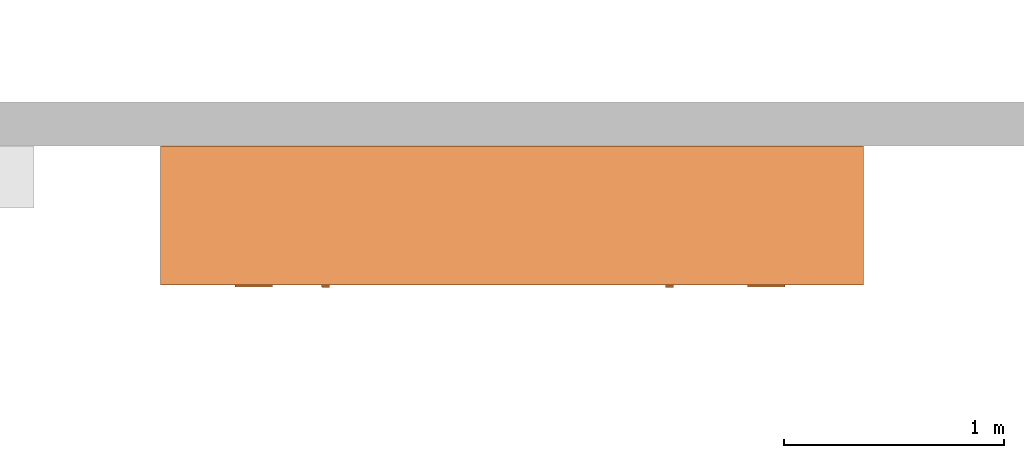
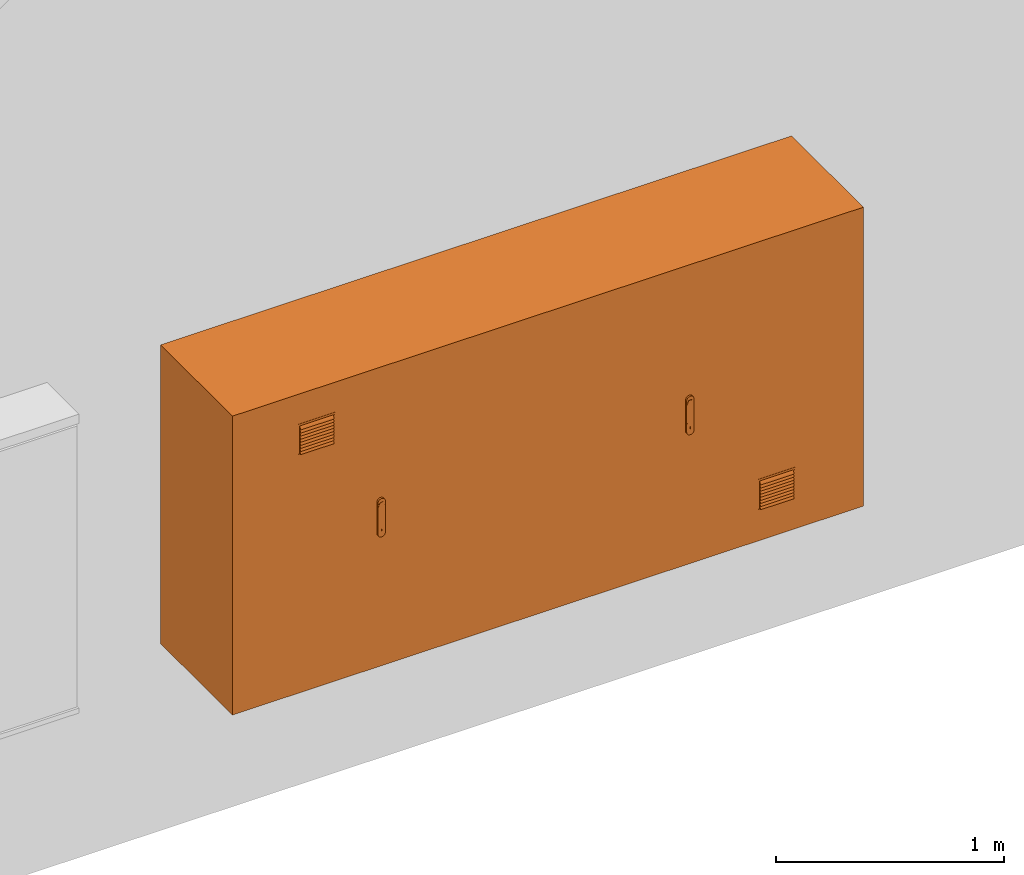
# One storey, part 48 of 197: 1 proxy.
"""IFC2X3 building model written with IfcOpenShell, lengths in metres."""

from ifc_helpers import new_model, entity, si_unit, converted_unit, direction, frame, frame_2d, origin, origin_2d_with_axis, place, context, subcontext, project, spatial, polyline, circle_curve, parameter, trimmed, segment, composite_curve, rectangle, circle, outline, extrude, source, transform, mapped, material, material_list, type_object, type_shapes, element, save


model = new_model("IFC2X3")

# Units and contexts
model_context = context("Model", 3, precision=1e-05, world=origin(), true_north=direction((6.123031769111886e-17, 1.0)))
body_context = subcontext(model_context, "Body", "Model", "MODEL_VIEW")
ifc_project = project(units=[si_unit("LENGTHUNIT", "METRE"), converted_unit("PLANEANGLEUNIT", "DEGREE", entity("IfcPlaneAngleMeasure", 0.017453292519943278), si_unit("PLANEANGLEUNIT", "RADIAN"), dimensions=[0, 0, 0, 0, 0, 0, 0]), si_unit("AREAUNIT", "SQUARE_METRE")], contexts=[model_context])

# Site, building, storey
site_placement = place(None, origin())
site = spatial("IfcSite", under=ifc_project, at=site_placement, Name="Default", CompositionType="ELEMENT")
building_placement = place(site_placement, origin())
building = spatial("IfcBuilding", under=site, at=building_placement, CompositionType="ELEMENT")
storey_placement = place(building_placement, origin())
storey = spatial("IfcBuildingStorey", under=building, at=storey_placement, Name="Niveau 0", CompositionType="ELEMENT", Elevation=0.0)

# Proxy
ifc_material_1 = material(Name="<Unnamed>")
ifc_material_2 = material(Name="A-PEINTURE ARMOIRE 4 - POIGNE - RAL 7035")
ifc_material_3 = material(Name="A-ACIER INOXIDABLE - BARILLET - RAL 9010")
ifc_material_4 = material(Name="BETCE-BARILLET-RAL 9010")
ifc_material_5 = material(Name="A-PEINTURE ARMOIRE 4 - ENVELOPPE - RAL 7035")
ifc_material_list = material_list([ifc_material_1, ifc_material_2, ifc_material_3, ifc_material_4, ifc_material_5])
building_element_proxy_type = type_object("IfcBuildingElementProxyType", Name="Armoire double 3195x1600x630:3195X1600", PredefinedType="NOTDEFINED", material=ifc_material_list)
shared_shape = source(origin(), body_context, "Body", "SweptSolid", [
    extrude(outline(polyline([(-0.004999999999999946, -0.0849999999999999), (0.005000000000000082, -0.0849999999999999), (0.005000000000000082, 0.0849999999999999), (-0.004999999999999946, 0.0849999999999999), (-0.004999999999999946, -0.0849999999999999)]), holes=[composite_curve([segment(trimmed(circle_curve(frame_2d((0.0, 0.0742499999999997), x_axis=(-1.0, 0.0)), 0.002), [parameter(179.99999999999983)], [parameter(0.0)], True, "PARAMETER"), False, "CONTINUOUS"), segment(trimmed(circle_curve(frame_2d((0.0, 0.0742499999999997), x_axis=(-1.0, 0.0)), 0.002), [parameter(0.0)], [parameter(179.99999999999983)], True, "PARAMETER"), False, "CONTINUOUS")], self_intersect=False), composite_curve([segment(trimmed(circle_curve(frame_2d((0.0, -0.0742500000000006), x_axis=(-1.0, 0.0)), 0.002), [parameter(179.99999999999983)], [parameter(359.99999999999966)], True, "PARAMETER"), False, "CONTINUOUS"), segment(trimmed(circle_curve(frame_2d((0.0, -0.0742500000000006), x_axis=(-1.0, 0.0)), 0.002), [parameter(3.5622212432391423e-13)], [parameter(179.99999999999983)], True, "PARAMETER"), False, "CONTINUOUS")], self_intersect=False)]), frame((0.6393749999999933, -0.7060000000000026, 1.3550000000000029), z_axis=(0.0, 1.0, 0.0), x_axis=(-1.0, 0.0, 0.0)), (0.0, 0.0, 1.0), 0.001000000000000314),
    extrude(outline(polyline([(-0.005000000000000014, -0.0849999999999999), (0.005000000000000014, -0.0849999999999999), (0.005000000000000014, 0.0849999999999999), (-0.005000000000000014, 0.0849999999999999), (-0.005000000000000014, -0.0849999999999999)]), holes=[composite_curve([segment(trimmed(circle_curve(frame_2d((0.0, 0.07425000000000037), x_axis=(-1.0, 0.0)), 0.002), [parameter(179.99999999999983)], [parameter(0.0)], True, "PARAMETER"), False, "CONTINUOUS"), segment(trimmed(circle_curve(frame_2d((0.0, 0.07425000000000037), x_axis=(-1.0, 0.0)), 0.002), [parameter(0.0)], [parameter(179.99999999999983)], True, "PARAMETER"), False, "CONTINUOUS")], self_intersect=False), composite_curve([segment(trimmed(circle_curve(frame_2d((0.0, -0.07424999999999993), x_axis=(-1.0, 0.0)), 0.002), [parameter(179.99999999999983)], [parameter(359.99999999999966)], True, "PARAMETER"), False, "CONTINUOUS"), segment(trimmed(circle_curve(frame_2d((0.0, -0.07424999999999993), x_axis=(-1.0, 0.0)), 0.002), [parameter(3.5622212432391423e-13)], [parameter(179.99999999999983)], True, "PARAMETER"), False, "CONTINUOUS")], self_intersect=False)]), frame((0.45937499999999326, -0.7060000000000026, 1.3550000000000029), z_axis=(0.0, 1.0, 0.0), x_axis=(-1.0, 0.0, 0.0)), (0.0, 0.0, 1.0), 0.001000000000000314),
    extrude(outline(composite_curve([segment(polyline([(-0.004434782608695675, -0.08822826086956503), (-0.0034347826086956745, -0.08822826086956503)]), True, "CONTINUOUS"), segment(polyline([(-0.0034347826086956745, -0.08822826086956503), (-0.0034347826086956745, -0.07747826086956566)]), True, "CONTINUOUS"), segment(trimmed(circle_curve(frame_2d((-0.018944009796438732, -0.05831413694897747), x_axis=(1.0, 0.0)), 0.024653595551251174), [parameter(308.9827075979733)], [parameter(353.79637307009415)], True, "PARAMETER"), True, "CONTINUOUS"), segment(polyline([(0.0055652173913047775, -0.06097826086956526), (-0.0034347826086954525, -0.06097826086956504)]), True, "CONTINUOUS"), segment(trimmed(circle_curve(frame_2d((-0.018944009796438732, -0.04181413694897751), x_axis=(1.0, 0.0)), 0.024653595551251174), [parameter(308.98270759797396)], [parameter(353.7963730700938)], True, "PARAMETER"), True, "CONTINUOUS"), segment(polyline([(0.0055652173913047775, -0.0444782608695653), (-0.0034347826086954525, -0.04447826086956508)]), True, "CONTINUOUS"), segment(trimmed(circle_curve(frame_2d((-0.018944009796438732, -0.02531413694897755), x_axis=(1.0, 0.0)), 0.024653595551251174), [parameter(308.98270759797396)], [parameter(353.7963730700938)], True, "PARAMETER"), True, "CONTINUOUS"), segment(polyline([(0.0055652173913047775, -0.02797826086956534), (-0.0034347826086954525, -0.027978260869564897)]), True, "CONTINUOUS"), segment(trimmed(circle_curve(frame_2d((-0.018944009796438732, -0.008814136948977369), x_axis=(1.0, 0.0)), 0.024653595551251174), [parameter(308.98270759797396)], [parameter(353.7963730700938)], True, "PARAMETER"), True, "CONTINUOUS"), segment(polyline([(0.0055652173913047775, -0.01147826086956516), (-0.0034347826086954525, -0.011478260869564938)]), True, "CONTINUOUS"), segment(trimmed(circle_curve(frame_2d((-0.018944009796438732, 0.00768586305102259), x_axis=(1.0, 0.0)), 0.024653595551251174), [parameter(308.98270759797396)], [parameter(353.7963730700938)], True, "PARAMETER"), True, "CONTINUOUS"), segment(polyline([(0.0055652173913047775, 0.005021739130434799), (-0.0034347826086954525, 0.005021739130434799)]), True, "CONTINUOUS"), segment(trimmed(circle_curve(frame_2d((-0.01894400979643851, 0.024185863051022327), x_axis=(1.0, 0.0)), 0.024653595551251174), [parameter(308.982707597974)], [parameter(353.79637307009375)], True, "PARAMETER"), True, "CONTINUOUS"), segment(polyline([(0.005565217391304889, 0.02152173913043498), (-0.0034347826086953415, 0.02152173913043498)]), True, "CONTINUOUS"), segment(trimmed(circle_curve(frame_2d((-0.01894400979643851, 0.04068586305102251), x_axis=(1.0, 0.0)), 0.024653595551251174), [parameter(308.982707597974)], [parameter(353.79637307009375)], True, "PARAMETER"), True, "CONTINUOUS"), segment(polyline([(0.005565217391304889, 0.03802173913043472), (-0.0034347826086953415, 0.03802173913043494)]), True, "CONTINUOUS"), segment(trimmed(circle_curve(frame_2d((-0.01894400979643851, 0.05718586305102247), x_axis=(1.0, 0.0)), 0.024653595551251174), [parameter(308.982707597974)], [parameter(353.79637307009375)], True, "PARAMETER"), True, "CONTINUOUS"), segment(polyline([(0.005565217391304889, 0.05452173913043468), (-0.0034347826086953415, 0.0545217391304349)]), True, "CONTINUOUS"), segment(trimmed(circle_curve(frame_2d((-0.01894400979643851, 0.07368586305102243), x_axis=(1.0, 0.0)), 0.024653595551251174), [parameter(308.982707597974)], [parameter(353.7963730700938)], True, "PARAMETER"), True, "CONTINUOUS"), segment(polyline([(0.005565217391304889, 0.07102173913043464), (-0.0034347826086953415, 0.07102173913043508)]), True, "CONTINUOUS"), segment(polyline([(-0.0034347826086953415, 0.07102173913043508), (-0.0034347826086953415, 0.08177173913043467)]), True, "CONTINUOUS"), segment(polyline([(-0.0034347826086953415, 0.08177173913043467), (-0.004434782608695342, 0.08177173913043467)]), True, "CONTINUOUS"), segment(polyline([(-0.004434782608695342, 0.08177173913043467), (-0.004434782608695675, -0.08822826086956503)]), True, "CONTINUOUS")], self_intersect=False)), frame((0.4643749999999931, -0.709434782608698, 1.3517717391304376), z_axis=(1.0, 0.0, 0.0), x_axis=(0.0, -1.0, 0.0)), (0.0, 0.0, 1.0), 0.16999999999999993),
    extrude(outline(polyline([(-0.004999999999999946, -0.0849999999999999), (0.004999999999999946, -0.0849999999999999), (0.004999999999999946, 0.0849999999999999), (-0.004999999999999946, 0.0849999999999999), (-0.004999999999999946, -0.0849999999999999)]), holes=[composite_curve([segment(trimmed(circle_curve(frame_2d((0.0, 0.0742499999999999), x_axis=(-1.0, 0.0)), 0.002), [parameter(179.99999999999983)], [parameter(0.0)], True, "PARAMETER"), False, "CONTINUOUS"), segment(trimmed(circle_curve(frame_2d((0.0, 0.0742499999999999), x_axis=(-1.0, 0.0)), 0.002), [parameter(0.0)], [parameter(179.99999999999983)], True, "PARAMETER"), False, "CONTINUOUS")], self_intersect=False), composite_curve([segment(trimmed(circle_curve(frame_2d((0.0, -0.07425000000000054), x_axis=(-1.0, 0.0)), 0.002), [parameter(179.99999999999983)], [parameter(359.99999999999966)], True, "PARAMETER"), False, "CONTINUOUS"), segment(trimmed(circle_curve(frame_2d((0.0, -0.07425000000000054), x_axis=(-1.0, 0.0)), 0.002), [parameter(3.5622212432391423e-13)], [parameter(179.99999999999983)], True, "PARAMETER"), False, "CONTINUOUS")], self_intersect=False)]), frame((2.968274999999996, -0.7060000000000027, 0.2450000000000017), z_axis=(0.0, 1.0, 0.0), x_axis=(-1.0, 0.0, 0.0)), (0.0, 0.0, 1.0), 0.001000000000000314),
    extrude(outline(polyline([(-0.004999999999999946, -0.0849999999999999), (0.004999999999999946, -0.0849999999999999), (0.004999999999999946, 0.0849999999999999), (-0.004999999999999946, 0.0849999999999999), (-0.004999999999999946, -0.0849999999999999)]), holes=[composite_curve([segment(trimmed(circle_curve(frame_2d((0.0, 0.07425000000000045), x_axis=(-1.0, 0.0)), 0.002), [parameter(179.99999999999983)], [parameter(0.0)], True, "PARAMETER"), False, "CONTINUOUS"), segment(trimmed(circle_curve(frame_2d((0.0, 0.07425000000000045), x_axis=(-1.0, 0.0)), 0.002), [parameter(0.0)], [parameter(179.99999999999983)], True, "PARAMETER"), False, "CONTINUOUS")], self_intersect=False), composite_curve([segment(trimmed(circle_curve(frame_2d((0.0, -0.07424999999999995), x_axis=(-1.0, 0.0)), 0.002), [parameter(179.99999999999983)], [parameter(359.99999999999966)], True, "PARAMETER"), False, "CONTINUOUS"), segment(trimmed(circle_curve(frame_2d((0.0, -0.07424999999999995), x_axis=(-1.0, 0.0)), 0.002), [parameter(3.5622212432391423e-13)], [parameter(179.99999999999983)], True, "PARAMETER"), False, "CONTINUOUS")], self_intersect=False)]), frame((2.788274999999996, -0.7060000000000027, 0.2450000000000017), z_axis=(0.0, 1.0, 0.0), x_axis=(-1.0, 0.0, 0.0)), (0.0, 0.0, 1.0), 0.001000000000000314),
    extrude(outline(composite_curve([segment(polyline([(-0.004434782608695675, -0.08822826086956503), (-0.0034347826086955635, -0.08822826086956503)]), True, "CONTINUOUS"), segment(polyline([(-0.0034347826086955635, -0.08822826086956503), (-0.0034347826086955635, -0.0774782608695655)]), True, "CONTINUOUS"), segment(trimmed(circle_curve(frame_2d((-0.01894400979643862, -0.05831413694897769), x_axis=(1.0, 0.0)), 0.024653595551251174), [parameter(308.9827075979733)], [parameter(353.79637307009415)], True, "PARAMETER"), True, "CONTINUOUS"), segment(polyline([(0.0055652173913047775, -0.060978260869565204), (-0.0034347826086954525, -0.06097826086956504)]), True, "CONTINUOUS"), segment(trimmed(circle_curve(frame_2d((-0.01894400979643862, -0.04181413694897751), x_axis=(1.0, 0.0)), 0.024653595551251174), [parameter(308.98270759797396)], [parameter(353.7963730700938)], True, "PARAMETER"), True, "CONTINUOUS"), segment(polyline([(0.0055652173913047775, -0.04447826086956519), (-0.0034347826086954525, -0.04447826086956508)]), True, "CONTINUOUS"), segment(trimmed(circle_curve(frame_2d((-0.01894400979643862, -0.02531413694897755), x_axis=(1.0, 0.0)), 0.024653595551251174), [parameter(308.98270759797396)], [parameter(353.7963730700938)], True, "PARAMETER"), True, "CONTINUOUS"), segment(polyline([(0.0055652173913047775, -0.02797826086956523), (-0.0034347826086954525, -0.027978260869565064)]), True, "CONTINUOUS"), segment(trimmed(circle_curve(frame_2d((-0.01894400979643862, -0.00881413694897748), x_axis=(1.0, 0.0)), 0.024653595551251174), [parameter(308.98270759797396)], [parameter(353.7963730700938)], True, "PARAMETER"), True, "CONTINUOUS"), segment(polyline([(0.0055652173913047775, -0.01147826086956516), (-0.0034347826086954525, -0.011478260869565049)]), True, "CONTINUOUS"), segment(trimmed(circle_curve(frame_2d((-0.01894400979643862, 0.007685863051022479), x_axis=(1.0, 0.0)), 0.024653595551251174), [parameter(308.98270759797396)], [parameter(353.7963730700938)], True, "PARAMETER"), True, "CONTINUOUS"), segment(polyline([(0.0055652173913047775, 0.005021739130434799), (-0.0034347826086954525, 0.005021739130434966)]), True, "CONTINUOUS"), segment(trimmed(circle_curve(frame_2d((-0.01894400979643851, 0.024185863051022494), x_axis=(1.0, 0.0)), 0.024653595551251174), [parameter(308.982707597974)], [parameter(353.79637307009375)], True, "PARAMETER"), True, "CONTINUOUS"), segment(polyline([(0.005565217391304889, 0.021521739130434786), (-0.0034347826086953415, 0.021521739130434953)]), True, "CONTINUOUS"), segment(trimmed(circle_curve(frame_2d((-0.01894400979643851, 0.04068586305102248), x_axis=(1.0, 0.0)), 0.024653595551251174), [parameter(308.982707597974)], [parameter(353.79637307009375)], True, "PARAMETER"), True, "CONTINUOUS"), segment(polyline([(0.005565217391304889, 0.0380217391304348), (-0.0034347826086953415, 0.03802173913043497)]), True, "CONTINUOUS"), segment(trimmed(circle_curve(frame_2d((-0.01894400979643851, 0.057185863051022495), x_axis=(1.0, 0.0)), 0.024653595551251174), [parameter(308.982707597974)], [parameter(353.79637307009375)], True, "PARAMETER"), True, "CONTINUOUS"), segment(polyline([(0.005565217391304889, 0.054521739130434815), (-0.0034347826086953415, 0.05452173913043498)]), True, "CONTINUOUS"), segment(trimmed(circle_curve(frame_2d((-0.01894400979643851, 0.07368586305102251), x_axis=(1.0, 0.0)), 0.024653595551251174), [parameter(308.982707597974)], [parameter(353.7963730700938)], True, "PARAMETER"), True, "CONTINUOUS"), segment(polyline([(0.005565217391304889, 0.0710217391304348), (-0.0034347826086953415, 0.07102173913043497)]), True, "CONTINUOUS"), segment(polyline([(-0.0034347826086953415, 0.07102173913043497), (-0.0034347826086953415, 0.08177173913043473)]), True, "CONTINUOUS"), segment(polyline([(-0.0034347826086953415, 0.08177173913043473), (-0.004434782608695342, 0.08177173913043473)]), True, "CONTINUOUS"), segment(polyline([(-0.004434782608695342, 0.08177173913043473), (-0.004434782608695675, -0.08822826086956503)]), True, "CONTINUOUS")], self_intersect=False)), frame((2.793274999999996, -0.7094347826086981, 0.24177173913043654), z_axis=(1.0, 0.0, 0.0), x_axis=(0.0, -1.0, 0.0)), (0.0, 0.0, 1.0), 0.17000000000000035),
    extrude(circle(Radius=0.01099999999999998, at=frame_2d((0.0, -1.353583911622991e-16), x_axis=(1.0, 0.0))), frame((2.438049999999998, -0.7150000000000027, 0.7134741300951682), z_axis=(0.0, 1.0, 0.0), x_axis=(-1.0, 0.0, 0.0)), (0.0, 0.0, 1.0), 0.0035401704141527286),
    extrude(outline(composite_curve([segment(trimmed(circle_curve(origin_2d_with_axis(), 0.01099999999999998), [parameter(7.124442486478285e-13)], [parameter(180.00000000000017)], True, "PARAMETER"), True, "CONTINUOUS"), segment(trimmed(circle_curve(origin_2d_with_axis(), 0.01099999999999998), [parameter(180.00000000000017)], [parameter(359.99999999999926)], True, "PARAMETER"), True, "CONTINUOUS")], self_intersect=False), holes=[polyline([(0.0009999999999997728, -0.008500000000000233), (-0.001000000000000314, -0.008500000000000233), (-0.001000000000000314, 0.0024999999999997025), (0.0009999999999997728, 0.0024999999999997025), (0.0009999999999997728, -0.008500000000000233)])]), frame((2.438049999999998, -0.7150000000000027, 0.7374741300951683), z_axis=(0.0, 1.0, 0.0), x_axis=(-1.0, 0.0, 0.0)), (0.0, 0.0, 1.0), 0.0035401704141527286),
    extrude(outline(composite_curve([segment(trimmed(circle_curve(frame_2d((0.0, -0.06905488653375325), x_axis=(1.0, 0.0)), 0.019017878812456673), [parameter(203.04660194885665)], [parameter(336.95339805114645)], True, "PARAMETER"), True, "CONTINUOUS"), segment(polyline([(0.017499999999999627, -0.07649999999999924), (0.01750000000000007, 0.023499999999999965)]), True, "CONTINUOUS"), segment(polyline([(0.01750000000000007, 0.023499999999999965), (0.014499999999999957, 0.023499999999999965)]), True, "CONTINUOUS"), segment(polyline([(0.014499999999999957, 0.023499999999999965), (0.014499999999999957, 0.02950000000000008)]), True, "CONTINUOUS"), segment(trimmed(circle_curve(frame_2d((0.0, 0.02949999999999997), x_axis=(1.0, 0.0)), 0.014499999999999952), [parameter(0.0)], [parameter(179.99999999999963)], True, "PARAMETER"), True, "CONTINUOUS"), segment(polyline([(-0.014499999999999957, 0.02950000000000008), (-0.014499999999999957, 0.023499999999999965)]), True, "CONTINUOUS"), segment(polyline([(-0.014499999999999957, 0.023499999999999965), (-0.017500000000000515, 0.023499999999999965)]), True, "CONTINUOUS"), segment(polyline([(-0.017500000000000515, 0.023499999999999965), (-0.017500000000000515, -0.07649999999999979)]), True, "CONTINUOUS")], self_intersect=False)), frame((2.4380499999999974, -0.7170000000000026, 0.8404999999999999), z_axis=(0.0, 1.0, 0.0), x_axis=(-1.0, 0.0, 0.0)), (0.0, 0.0, 1.0), 0.0019999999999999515),
    extrude(outline(composite_curve([segment(trimmed(circle_curve(frame_2d((0.0, -0.08450000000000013), x_axis=(1.0, 0.0)), 0.018499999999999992), [parameter(179.99999999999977)], [parameter(359.9999999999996)], True, "PARAMETER"), True, "CONTINUOUS"), segment(polyline([(0.01849999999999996, -0.08450000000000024), (0.018500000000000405, 0.08450000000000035)]), True, "CONTINUOUS"), segment(trimmed(circle_curve(frame_2d((0.0, 0.08450000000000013), x_axis=(1.0, 0.0)), 0.018499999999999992), [parameter(0.0)], [parameter(179.99999999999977)], True, "PARAMETER"), True, "CONTINUOUS"), segment(polyline([(-0.01849999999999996, 0.08450000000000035), (-0.018500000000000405, -0.08450000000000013)]), True, "CONTINUOUS")], self_intersect=False), holes=[composite_curve([segment(trimmed(circle_curve(frame_2d((0.0, -0.06252586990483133), x_axis=(1.0, 0.0)), 0.01099999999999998), [parameter(0.0)], [parameter(180.00000000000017)], True, "PARAMETER"), False, "CONTINUOUS"), segment(trimmed(circle_curve(frame_2d((0.0, -0.06252586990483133), x_axis=(1.0, 0.0)), 0.01099999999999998), [parameter(180.00000000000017)], [parameter(0.0)], True, "PARAMETER"), False, "CONTINUOUS")], self_intersect=False), composite_curve([segment(trimmed(circle_curve(frame_2d((0.0, -0.08652586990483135), x_axis=(1.0, 0.0)), 0.01099999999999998), [parameter(0.0)], [parameter(180.00000000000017)], True, "PARAMETER"), False, "CONTINUOUS"), segment(trimmed(circle_curve(frame_2d((0.0, -0.08652586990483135), x_axis=(1.0, 0.0)), 0.01099999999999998), [parameter(180.00000000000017)], [parameter(0.0)], True, "PARAMETER"), False, "CONTINUOUS")], self_intersect=False)]), frame((2.438049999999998, -0.7150000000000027, 0.7999999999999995), z_axis=(0.0, 1.0, 0.0), x_axis=(-1.0, 0.0, 0.0)), (0.0, 0.0, 1.0), 0.010000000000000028),
    extrude(circle(Radius=0.01099999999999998, at=frame_2d((0.0, -1.353583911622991e-16), x_axis=(1.0, 0.0))), frame((0.8752499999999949, -0.7150000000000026, 0.7134741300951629), z_axis=(0.0, 1.0, 0.0), x_axis=(-1.0, 0.0, 0.0)), (0.0, 0.0, 1.0), 0.0035401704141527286),
    extrude(outline(composite_curve([segment(trimmed(circle_curve(origin_2d_with_axis(), 0.01099999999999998), [parameter(7.124442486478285e-13)], [parameter(180.00000000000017)], True, "PARAMETER"), True, "CONTINUOUS"), segment(trimmed(circle_curve(origin_2d_with_axis(), 0.01099999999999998), [parameter(180.00000000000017)], [parameter(359.99999999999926)], True, "PARAMETER"), True, "CONTINUOUS")], self_intersect=False), holes=[polyline([(0.0009999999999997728, -0.008500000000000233), (-0.001000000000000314, -0.008500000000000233), (-0.001000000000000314, 0.0024999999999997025), (0.0009999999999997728, 0.0024999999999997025), (0.0009999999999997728, -0.008500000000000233)])]), frame((0.8752499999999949, -0.7150000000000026, 0.7374741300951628), z_axis=(0.0, 1.0, 0.0), x_axis=(-1.0, 0.0, 0.0)), (0.0, 0.0, 1.0), 0.0035401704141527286),
    extrude(outline(composite_curve([segment(trimmed(circle_curve(frame_2d((0.0, -0.06905488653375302), x_axis=(1.0, 0.0)), 0.019017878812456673), [parameter(203.04660194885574)], [parameter(336.9533980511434)], True, "PARAMETER"), True, "CONTINUOUS"), segment(polyline([(0.01749999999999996, -0.07650000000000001), (0.01750000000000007, 0.023500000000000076)]), True, "CONTINUOUS"), segment(polyline([(0.01750000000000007, 0.023500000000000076), (0.01450000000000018, 0.023500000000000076)]), True, "CONTINUOUS"), segment(polyline([(0.01450000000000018, 0.023500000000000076), (0.01450000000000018, 0.029500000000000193)]), True, "CONTINUOUS"), segment(trimmed(circle_curve(frame_2d((0.0, 0.02950000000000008), x_axis=(1.0, 0.0)), 0.014499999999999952), [parameter(0.0)], [parameter(179.99999999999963)], True, "PARAMETER"), True, "CONTINUOUS"), segment(polyline([(-0.014499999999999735, 0.029500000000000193), (-0.014499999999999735, 0.023500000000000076)]), True, "CONTINUOUS"), segment(polyline([(-0.014499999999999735, 0.023500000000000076), (-0.01749999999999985, 0.023500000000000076)]), True, "CONTINUOUS"), segment(polyline([(-0.01749999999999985, 0.023500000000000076), (-0.01749999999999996, -0.07649999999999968)]), True, "CONTINUOUS")], self_intersect=False)), frame((0.8752499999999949, -0.7170000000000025, 0.8404999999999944), z_axis=(0.0, 1.0, 0.0), x_axis=(-1.0, 0.0, 0.0)), (0.0, 0.0, 1.0), 0.0019999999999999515),
    extrude(outline(composite_curve([segment(trimmed(circle_curve(frame_2d((0.0, -0.08450000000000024), x_axis=(1.0, 0.0)), 0.018499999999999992), [parameter(180.00000000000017)], [parameter(359.9999999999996)], True, "PARAMETER"), True, "CONTINUOUS"), segment(polyline([(0.01849999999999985, -0.08450000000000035), (0.01849999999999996, 0.08450000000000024)]), True, "CONTINUOUS"), segment(trimmed(circle_curve(frame_2d((0.0, 0.08450000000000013), x_axis=(1.0, 0.0)), 0.018499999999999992), [parameter(0.0)], [parameter(179.99999999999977)], True, "PARAMETER"), True, "CONTINUOUS"), segment(polyline([(-0.01849999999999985, 0.08450000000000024), (-0.01849999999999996, -0.08450000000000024)]), True, "CONTINUOUS")], self_intersect=False), holes=[composite_curve([segment(trimmed(circle_curve(frame_2d((0.0, -0.06252586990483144), x_axis=(1.0, 0.0)), 0.01099999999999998), [parameter(0.0)], [parameter(180.00000000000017)], True, "PARAMETER"), False, "CONTINUOUS"), segment(trimmed(circle_curve(frame_2d((0.0, -0.06252586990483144), x_axis=(1.0, 0.0)), 0.01099999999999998), [parameter(180.00000000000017)], [parameter(0.0)], True, "PARAMETER"), False, "CONTINUOUS")], self_intersect=False), composite_curve([segment(trimmed(circle_curve(frame_2d((0.0, -0.08652586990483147), x_axis=(1.0, 0.0)), 0.01099999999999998), [parameter(0.0)], [parameter(180.00000000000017)], True, "PARAMETER"), False, "CONTINUOUS"), segment(trimmed(circle_curve(frame_2d((0.0, -0.08652586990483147), x_axis=(1.0, 0.0)), 0.01099999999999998), [parameter(180.00000000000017)], [parameter(0.0)], True, "PARAMETER"), False, "CONTINUOUS")], self_intersect=False)]), frame((0.8752499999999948, -0.7150000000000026, 0.7999999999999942), z_axis=(0.0, 1.0, 0.0), x_axis=(-1.0, 0.0, 0.0)), (0.0, 0.0, 1.0), 0.010000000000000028),
    extrude(rectangle(XDim=0.03299999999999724, YDim=0.7487499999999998, at=frame_2d((-6.765421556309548e-17, 0.0), x_axis=(1.0, 0.0))), frame((1.2981249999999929, -0.6884999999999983, 0.050000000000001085), z_axis=(0.0, 0.0, 1.0), x_axis=(0.0, 1.0, 0.0)), (0.0, 0.0, 1.0), 1.5000000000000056),
    extrude(rectangle(XDim=0.03299999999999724, YDim=0.7140500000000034, at=frame_2d((6.765421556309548e-17, 0.0), x_axis=(1.0, 0.0))), frame((2.1295249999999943, -0.6884999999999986, 0.049999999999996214), z_axis=(0.0, 0.0, 1.0), x_axis=(0.0, 1.0, 0.0)), (0.0, 0.0, 1.0), 1.5000000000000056),
    extrude(rectangle(XDim=0.032999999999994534, YDim=0.1, at=frame_2d((6.765421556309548e-17, 0.0), x_axis=(1.0, 0.0))), frame((1.7224999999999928, -0.6885, 0.050000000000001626), z_axis=(0.0, 0.0, 1.0), x_axis=(0.0, 1.0, 0.0)), (0.0, 0.0, 1.0), 1.5000000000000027),
    extrude(rectangle(XDim=0.032999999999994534, YDim=0.04999999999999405, at=frame_2d((6.765421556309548e-17, -5.412337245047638e-16), x_axis=(1.0, 0.0))), frame((3.294999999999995, -0.6885, 0.04999999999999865), z_axis=(0.0, 0.0, 1.0), x_axis=(0.0, 1.0, 0.0)), (0.0, 0.0, 1.0), 1.5000000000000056),
    extrude(rectangle(XDim=0.032999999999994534, YDim=0.05000000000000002, at=frame_2d((-6.765421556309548e-17, 8.673617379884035e-18), x_axis=(1.0, 0.0))), frame((0.1499999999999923, -0.6884999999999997, 0.04999999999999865), z_axis=(0.0, 0.0, 1.0), x_axis=(0.0, 1.0, 0.0)), (0.0, 0.0, 1.0), 1.5000000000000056),
    extrude(rectangle(XDim=0.03299999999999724, YDim=0.7487500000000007, at=frame_2d((-6.765421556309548e-17, -8.326672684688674e-17), x_axis=(1.0, 0.0))), frame((0.5493749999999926, -0.6884999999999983, 0.04999999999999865), z_axis=(0.0, 0.0, 1.0), x_axis=(0.0, 1.0, 0.0)), (0.0, 0.0, 1.0), 1.5000000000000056),
    extrude(rectangle(XDim=0.03299999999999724, YDim=0.7834500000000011, at=frame_2d((6.765421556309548e-17, 2.7755575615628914e-16), x_axis=(1.0, 0.0))), frame((2.878274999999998, -0.6884999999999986, 0.04999999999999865), z_axis=(0.0, 0.0, 1.0), x_axis=(0.0, 1.0, 0.0)), (0.0, 0.0, 1.0), 1.5000000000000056),
    extrude(outline(polyline([(-0.8000000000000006, -0.1657500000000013), (-0.7500000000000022, -0.1657500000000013), (-0.7500000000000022, -0.13275000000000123), (0.7500000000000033, -0.13274999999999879), (0.7500000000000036, -0.165749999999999), (0.7999999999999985, -0.16574999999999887), (0.8000000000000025, 0.4642500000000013), (-0.8000000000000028, 0.46424999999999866), (-0.8000000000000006, -0.1657500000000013)])), frame((0.12499999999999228, -0.5392500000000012, 0.8000000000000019), z_axis=(1.0, 0.0, 0.0), x_axis=(0.0, 0.0, -1.0)), (0.0, 0.0, 1.0), 3.1950000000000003),
])
type_shapes(building_element_proxy_type, [shared_shape])
proxy_placement = place(storey_placement, frame((-523.738595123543, -51.077644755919, 1.0)))
element("IfcBuildingElementProxy", 1, at=proxy_placement, inside=storey, type_object=building_element_proxy_type, material=ifc_material_list, Name="Armoire double 3195x1600x630:3195X1600", ObjectType="Armoire double 3195x1600x630:3195X1600", context=body_context, shape_type="MappedRepresentation", body=[
    mapped(shared_shape, transform((0.0, 0.0, 0.0), scale=1.0)),
])

save(model, "model.ifc")
